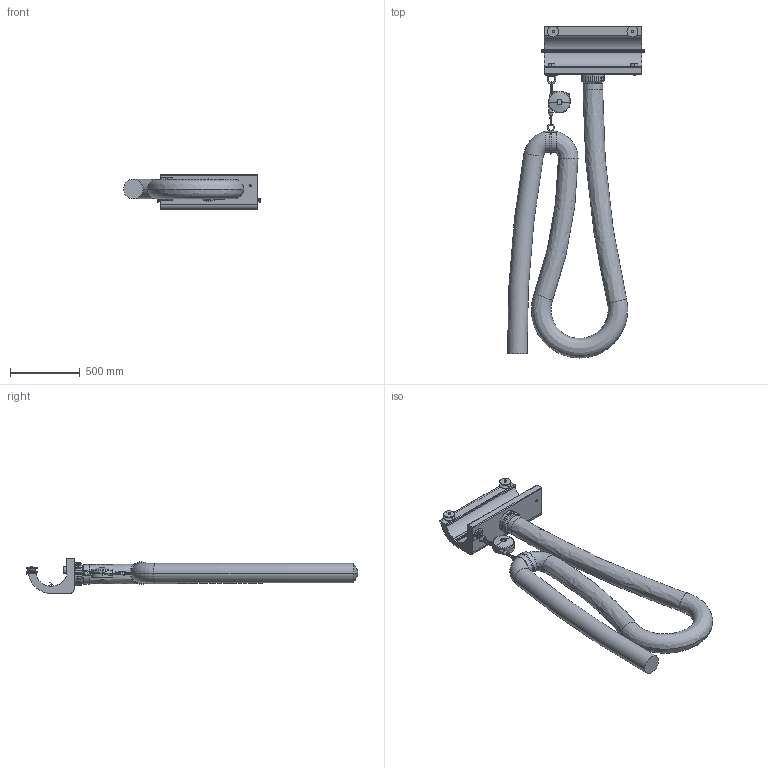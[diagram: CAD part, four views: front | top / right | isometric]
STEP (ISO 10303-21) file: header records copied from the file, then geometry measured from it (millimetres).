
FILE_DESCRIPTION((''),'2;1');
FILE_NAME('APS_512_M-L','2022-05-25T14:52:00',('Tomas Bellgran'),(''),'CREO PARAMETRIC BY PTC INC, 2018260','CREO PARAMETRIC BY PTC INC, 2018260','');
FILE_SCHEMA(('AUTOMOTIVE_DESIGN { 1 0 10303 214 1 1 1 1 }'));
Length unit declared in the file: millimetre
Products named in the file (17): 130-500_LIGHT; SURRNINGSOGLA; RCF_160-125; RF300_L; 109050-1-REF; 109050-2-REF; 109050; 109020; 129020; 108775_AF42; 115263; 109053-1-REF; 109053-2-REF; 109053; HOSE_LEFT-125; LEFT_HOSE_PKG_125; APS_512_M-L
Assembly tree (16 placements, depth 5):
  APS_512_M-L
    130-500_LIGHT
    SURRNINGSOGLA
    RCF_160-125
    LEFT_HOSE_PKG_125
      109020
        RF300_L
        109050
          109050-1-REF
          109050-2-REF
      129020
      108775_AF42
      115263
      109053
        109053-1-REF
        109053-2-REF
      HOSE_LEFT-125
Bounding box: 980.97 x 2378.22 x 251 mm (x, y, z)
Volume: 107980863.2 mm3; surface area: 3740761.1 mm2
Topology: 12 solids, 12 shells, 512 faces, 1206 edges, 750 vertices
Faces by surface type: plane 202, cylinder 189, torus 59, cone 38, bspline 16, sphere 8
Entity records: 29845 total; most frequent: CARTESIAN_POINT 6357, DIRECTION 2932, ORIENTED_EDGE 2396, PRESENTATION_STYLE_ASSIGNMENT 1475, STYLED_ITEM 1405, EDGE_CURVE 1198, AXIS2_PLACEMENT_3D 1155, CURVE_STYLE 1090
